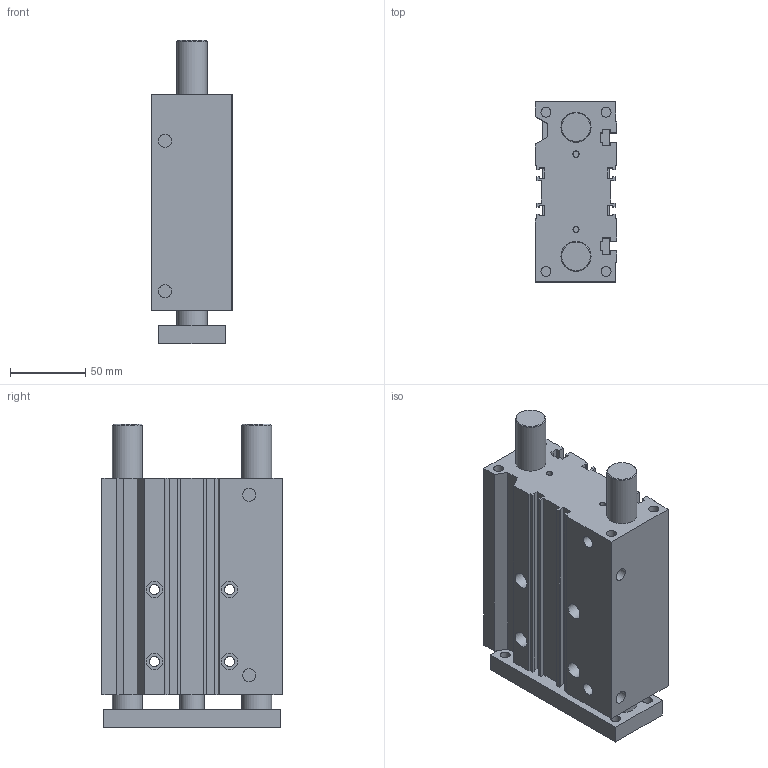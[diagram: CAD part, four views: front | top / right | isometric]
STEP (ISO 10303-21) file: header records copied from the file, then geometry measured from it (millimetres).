
FILE_DESCRIPTION((''),'2;1');
FILE_NAME('I:\Area Tecnica\Disegni\VARIE-3D\Componenti\6100\6100 Ø20-63\6100_##_###_#\6100400100B.stp','2012-01-11T09:10:09',('airolcr1'),(''),'Autodesk Inventor 2012','Autodesk Inventor 2012','');
FILE_SCHEMA(('AUTOMOTIVE_DESIGN { 1 0 10303 214 1 1 1 1 }'));
Length unit declared in the file: millimetre
Products named in the file (3): 6100400100B; CORPO Ø40 C100 B; PIASTRA Ø40 C100 B
Assembly tree (2 placements, depth 2):
  6100400100B
    CORPO Ø40 C100 B
    PIASTRA Ø40 C100 B
Bounding box: 54 x 120 x 202 mm (x, y, z)
Volume: 939907.8 mm3; surface area: 151603.3 mm2
Topology: 2 solids, 2 shells, 166 faces, 417 edges, 277 vertices
Faces by surface type: plane 126, cylinder 38, cone 2
Full cylindrical faces by diameter (mm): 4 x6, 6.647 x8, 6.65 x4, 8.566 x4, 11 x4, 16 x2, 20 x4
Entity records: 5013 total; most frequent: CARTESIAN_POINT 815, DIRECTION 798, ORIENTED_EDGE 750, EDGE_CURVE 375, VECTOR 294, LINE 294, VERTEX_POINT 269, AXIS2_PLACEMENT_3D 252
